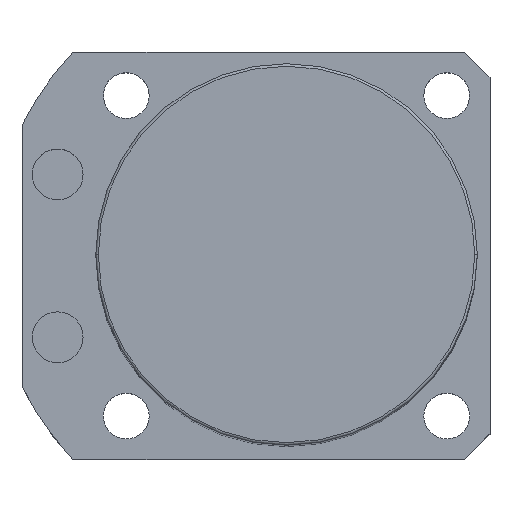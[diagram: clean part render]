
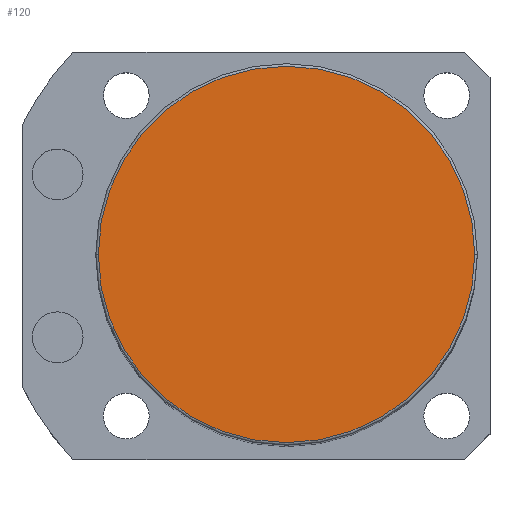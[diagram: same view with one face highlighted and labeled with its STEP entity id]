
A CAD part, top view. The second image highlights one B-rep face of the part: STEP entity #120.
In plain terms, the highlighted planar face has unit normal (0, 0, 1).
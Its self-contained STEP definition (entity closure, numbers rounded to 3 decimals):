
#69 = CARTESIAN_POINT ( 'NONE',  ( 0., 0., 175.5 ) ) ;
#95 = DIRECTION ( 'NONE',  ( 0., 0., 1. ) ) ;
#103 = CARTESIAN_POINT ( 'NONE',  ( 0., 0., 175.5 ) ) ;
#120 = ADVANCED_FACE ( 'NONE', ( #2211 ), #1692, .T. ) ;
#137 = AXIS2_PLACEMENT_3D ( 'NONE', #69, #1497, #490 ) ;
#143 = VERTEX_POINT ( 'NONE', #923 ) ;
#156 = EDGE_CURVE ( 'NONE', #143, #1121, #1458, .T. ) ;
#236 = EDGE_LOOP ( 'NONE', ( #1058, #2393 ) ) ;
#490 = DIRECTION ( 'NONE',  ( 1., 0., 0. ) ) ;
#541 = CARTESIAN_POINT ( 'NONE',  ( -37., 0., 175.5 ) ) ;
#758 = AXIS2_PLACEMENT_3D ( 'NONE', #103, #2306, #914 ) ;
#885 = CIRCLE ( 'NONE', #758, 37. ) ;
#914 = DIRECTION ( 'NONE',  ( 1., 0., 0. ) ) ;
#923 = CARTESIAN_POINT ( 'NONE',  ( 37., 0., 175.5 ) ) ;
#1024 = EDGE_CURVE ( 'NONE', #1121, #143, #885, .T. ) ;
#1058 = ORIENTED_EDGE ( 'NONE', *, *, #156, .T. ) ;
#1121 = VERTEX_POINT ( 'NONE', #541 ) ;
#1458 = CIRCLE ( 'NONE', #137, 37. ) ;
#1497 = DIRECTION ( 'NONE',  ( 0., 0., 1. ) ) ;
#1692 = PLANE ( 'NONE',  #2485 ) ;
#1900 = DIRECTION ( 'NONE',  ( 1., 0., 0. ) ) ;
#2211 = FACE_OUTER_BOUND ( 'NONE', #236, .T. ) ;
#2304 = CARTESIAN_POINT ( 'NONE',  ( 0., 0., 175.5 ) ) ;
#2306 = DIRECTION ( 'NONE',  ( 0., 0., 1. ) ) ;
#2393 = ORIENTED_EDGE ( 'NONE', *, *, #1024, .T. ) ;
#2485 = AXIS2_PLACEMENT_3D ( 'NONE', #2304, #95, #1900 ) ;
